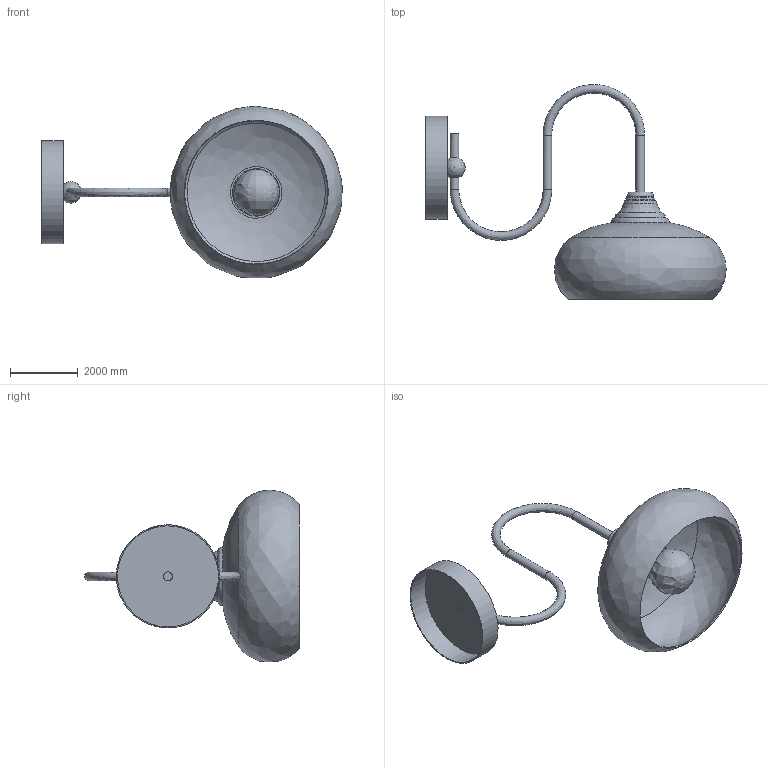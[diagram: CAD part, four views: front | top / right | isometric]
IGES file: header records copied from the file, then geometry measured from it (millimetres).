
Global section: file name: Nova Glass Wall Light; native system: AutoCAD 2022 - 简体中文 (Simplified Chinese),62HAuto; preprocessor: desk Translation Framework DWG producer (atf_dwg_producer); organization: unknown; date: 20250930.093433; units: inch
Bounding box: 8886.11 x 6350 x 5068.85 mm (x, y, z)
Volume: 4729102557.2 mm3; surface area: 166418289.1 mm2
Topology: 8 solids, 8 shells, 77 faces, 184 edges, 128 vertices
Faces by surface type: bspline 77
